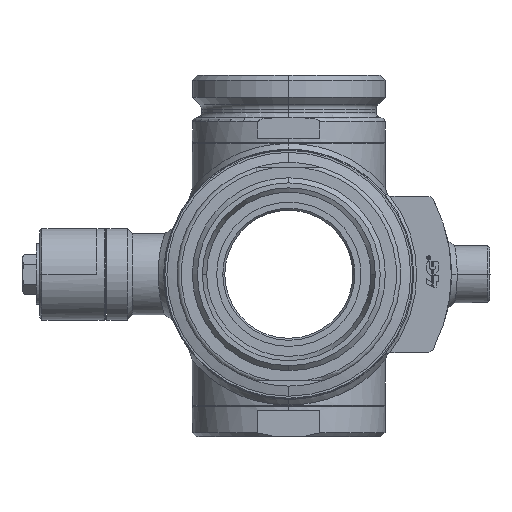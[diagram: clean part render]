
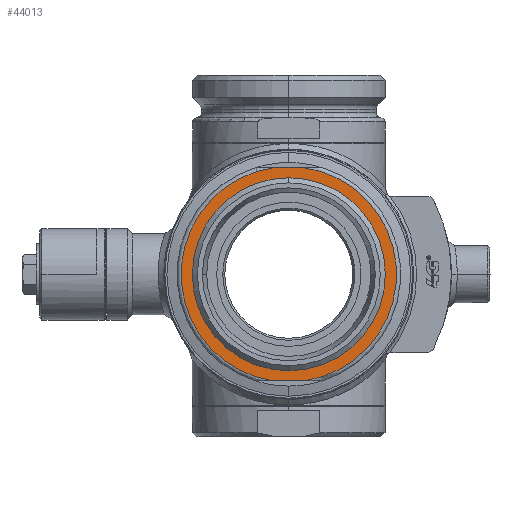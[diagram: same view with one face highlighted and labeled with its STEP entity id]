
A CAD part, left-side view. The second image highlights one B-rep face of the part: STEP entity #44013.
In plain terms, the highlighted planar face has unit normal (-1, 0, 0).
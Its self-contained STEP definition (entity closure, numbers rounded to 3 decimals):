
#2644=CARTESIAN_POINT('',(-77.,0.,0.));
#2645=DIRECTION('',(-1.,0.,0.));
#2646=DIRECTION('',(0.,0.,1.));
#2647=AXIS2_PLACEMENT_3D('',#2644,#2645,#2646);
#2654=DIRECTION('',(0.,1.,0.));
#2655=VECTOR('',#2654,14.526);
#2656=CARTESIAN_POINT('',(-77.,-7.263,-52.5));
#2657=LINE('',#2656,#2655);
#2658=DIRECTION('',(0.,1.,0.));
#2659=VECTOR('',#2658,14.526);
#2660=CARTESIAN_POINT('',(-77.,-7.263,52.5));
#2661=LINE('',#2660,#2659);
#2708=CARTESIAN_POINT('',(-77.,0.,0.));
#2709=DIRECTION('',(-1.,0.,0.));
#2710=DIRECTION('',(0.,-0.137,-0.991));
#2711=AXIS2_PLACEMENT_3D('',#2708,#2709,#2710);
#2789=CARTESIAN_POINT('',(-77.,0.,0.));
#2790=DIRECTION('',(-1.,0.,0.));
#2791=DIRECTION('',(0.,0.137,0.991));
#2792=AXIS2_PLACEMENT_3D('',#2789,#2790,#2791);
#2878=CARTESIAN_POINT('',(-77.,0.,0.));
#2879=DIRECTION('',(-1.,0.,0.));
#2880=DIRECTION('',(0.,0.,-1.));
#2881=AXIS2_PLACEMENT_3D('',#2878,#2879,#2880);
#40459=CARTESIAN_POINT('',(-77.,0.,45.5));
#40460=CARTESIAN_POINT('',(-77.,0.,-45.5));
#40461=VERTEX_POINT('',#40459);
#40462=VERTEX_POINT('',#40460);
#40519=CARTESIAN_POINT('',(-77.,7.263,52.5));
#40520=CARTESIAN_POINT('',(-77.,7.263,-52.5));
#40521=VERTEX_POINT('',#40519);
#40522=VERTEX_POINT('',#40520);
#40527=CARTESIAN_POINT('',(-77.,-7.263,-52.5));
#40528=CARTESIAN_POINT('',(-77.,-7.263,52.5));
#40529=VERTEX_POINT('',#40527);
#40530=VERTEX_POINT('',#40528);
#43993=CARTESIAN_POINT('',(-77.,0.,0.));
#43994=DIRECTION('',(-1.,0.,0.));
#43995=DIRECTION('',(0.,1.,0.));
#43996=AXIS2_PLACEMENT_3D('',#43993,#43994,#43995);
#43997=PLANE('',#43996);
#43999=ORIENTED_EDGE('',*,*,#43998,.T.);
#44001=ORIENTED_EDGE('',*,*,#44000,.F.);
#44003=ORIENTED_EDGE('',*,*,#44002,.F.);
#44005=ORIENTED_EDGE('',*,*,#44004,.F.);
#44006=EDGE_LOOP('',(#43999,#44001,#44003,#44005));
#44007=FACE_OUTER_BOUND('',#44006,.F.);
#44008=ORIENTED_EDGE('',*,*,#43983,.T.);
#44010=ORIENTED_EDGE('',*,*,#44009,.T.);
#44011=EDGE_LOOP('',(#44008,#44010));
#44012=FACE_BOUND('',#44011,.F.);
#44013=ADVANCED_FACE('',(#44007,#44012),#43997,.T.);
#2648=CIRCLE('',#2647,45.5);
#2712=CIRCLE('',#2711,53.);
#2793=CIRCLE('',#2792,53.);
#2882=CIRCLE('',#2881,45.5);
#43983=EDGE_CURVE('',#40461,#40462,#2648,.T.);
#43998=EDGE_CURVE('',#40529,#40522,#2657,.T.);
#44000=EDGE_CURVE('',#40521,#40522,#2793,.T.);
#44002=EDGE_CURVE('',#40530,#40521,#2661,.T.);
#44004=EDGE_CURVE('',#40529,#40530,#2712,.T.);
#44009=EDGE_CURVE('',#40462,#40461,#2882,.T.);
